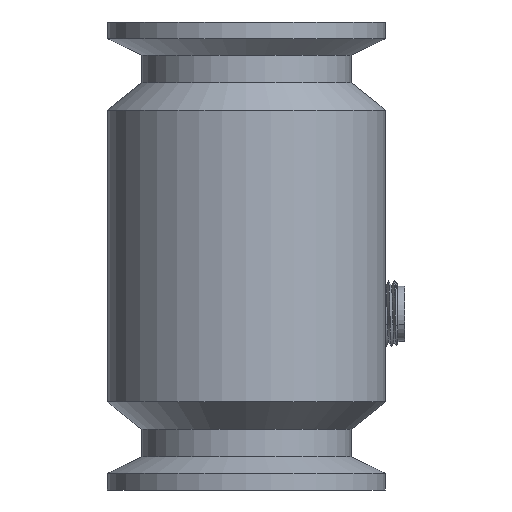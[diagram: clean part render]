
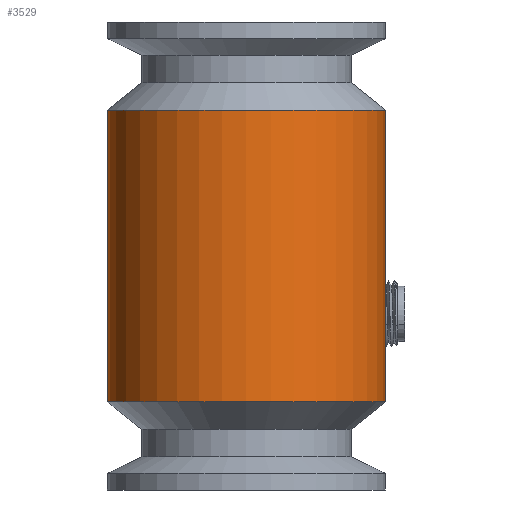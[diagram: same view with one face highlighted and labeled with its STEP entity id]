
A CAD part, front view. The second image highlights one B-rep face of the part: STEP entity #3529.
In plain terms, the highlighted cylindrical face has radius 25.25 mm (diameter 50.5 mm), a full revolution.
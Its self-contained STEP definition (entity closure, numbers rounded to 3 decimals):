
#2275=FACE_BOUND('',#5282,.T.);
#2276=FACE_BOUND('',#5283,.T.);
#2277=FACE_BOUND('',#5284,.T.);
#2448=CYLINDRICAL_SURFACE('',#15269,25.25);
#2809=CIRCLE('',#15267,25.25);
#2810=CIRCLE('',#15268,25.25);
#3529=ADVANCED_FACE('',(#2275,#2276,#2277),#2448,.T.);
#5282=EDGE_LOOP('',(#9482));
#5283=EDGE_LOOP('',(#9483));
#5284=EDGE_LOOP('',(#9484));
#6005=B_SPLINE_CURVE_WITH_KNOTS('',3,(#31676,#31677,#31678,#31679,#31680,
#31681,#31682,#31683,#31684,#31685,#31686,#31687,#31688,#31689,#31690,#31691,
#31692,#31693,#31694,#31695,#31696,#31697,#31698,#31699),.UNSPECIFIED.,
 .T.,.F.,(2,2,2,2,2,2,2,2,2,2,2,2,2,2),(-0.062,0.,0.125,0.25,
0.375,0.438,0.5,0.563,
0.625,0.75,0.875,0.938,1.,1.125),.UNSPECIFIED.);
#9482=ORIENTED_EDGE('',*,*,#12555,.T.);
#9483=ORIENTED_EDGE('',*,*,#12556,.T.);
#9484=ORIENTED_EDGE('',*,*,#12557,.T.);
#10779=VERTEX_POINT('',#31700);
#10780=VERTEX_POINT('',#31702);
#10781=VERTEX_POINT('',#31704);
#12555=EDGE_CURVE('',#10779,#10779,#6005,.T.);
#12556=EDGE_CURVE('',#10780,#10780,#2809,.T.);
#12557=EDGE_CURVE('',#10781,#10781,#2810,.T.);
#15267=AXIS2_PLACEMENT_3D('',#31701,#18040,#18041);
#15268=AXIS2_PLACEMENT_3D('',#31703,#18042,#18043);
#15269=AXIS2_PLACEMENT_3D('',#31705,#18044,#18045);
#18040=DIRECTION('',(0.,0.,1.));
#18041=DIRECTION('',(-1.,0.,0.));
#18042=DIRECTION('',(0.,0.,-1.));
#18043=DIRECTION('',(1.,0.,0.));
#18044=DIRECTION('',(0.,0.,1.));
#18045=DIRECTION('',(-1.,0.,0.));
#31676=CARTESIAN_POINT('',(1.127,18.287,127.274));
#31677=CARTESIAN_POINT('',(6.486,17.658,128.949));
#31678=CARTESIAN_POINT('',(9.105,16.601,131.832));
#31679=CARTESIAN_POINT('',(12.187,15.163,138.427));
#31680=CARTESIAN_POINT('',(12.694,14.818,142.309));
#31681=CARTESIAN_POINT('',(11.567,15.438,149.585));
#31682=CARTESIAN_POINT('',(9.949,16.358,153.08));
#31683=CARTESIAN_POINT('',(5.984,17.562,156.788));
#31684=CARTESIAN_POINT('',(4.372,17.929,157.773));
#31685=CARTESIAN_POINT('',(0.776,18.302,158.762));
#31686=CARTESIAN_POINT('',(-1.153,18.288,158.725));
#31687=CARTESIAN_POINT('',(-4.694,17.88,157.631));
#31688=CARTESIAN_POINT('',(-6.291,17.499,156.595));
#31689=CARTESIAN_POINT('',(-8.875,16.689,154.058));
#31690=CARTESIAN_POINT('',(-9.913,16.252,152.529));
#31691=CARTESIAN_POINT('',(-12.228,15.174,147.58));
#31692=CARTESIAN_POINT('',(-12.737,14.83,143.693));
#31693=CARTESIAN_POINT('',(-11.608,15.449,136.41));
#31694=CARTESIAN_POINT('',(-9.989,16.368,132.912));
#31695=CARTESIAN_POINT('',(-6.017,17.569,129.205));
#31696=CARTESIAN_POINT('',(-4.409,17.934,128.222));
#31697=CARTESIAN_POINT('',(-0.797,18.304,127.235));
#31698=CARTESIAN_POINT('',(1.127,18.287,127.274));
#31699=CARTESIAN_POINT('',(6.486,17.658,128.949));
#31700=CARTESIAN_POINT('',(2.913,18.078,127.832));
#31701=CARTESIAN_POINT('',(-0.031,-7.,127.));
#31702=CARTESIAN_POINT('',(-25.281,-7.,127.));
#31703=CARTESIAN_POINT('',(-0.031,-7.,180.));
#31704=CARTESIAN_POINT('',(25.219,-7.,180.));
#31705=CARTESIAN_POINT('',(-0.031,-7.,97.));
